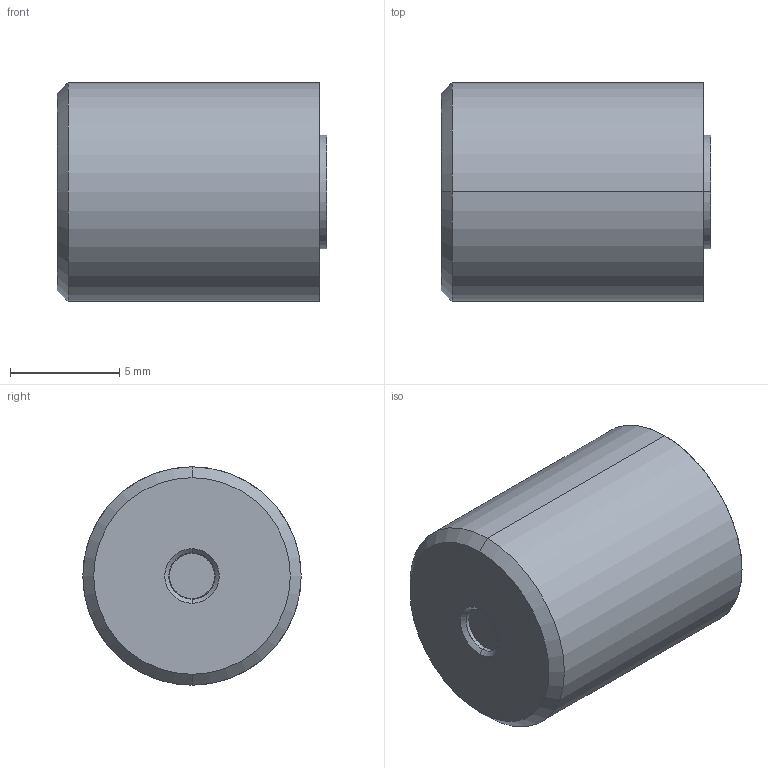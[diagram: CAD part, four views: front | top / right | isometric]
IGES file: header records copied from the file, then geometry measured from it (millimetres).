
Start section: START RECORD GO HERE.
Global section: file name: D374-10-A-DM-FA.igs; native system: DASSAULT SYSTEMES CATIA V5 R20 - www.3ds.com; preprocessor: CATIA Version 5 Release 20 ; author: Utente; organization: NB04-ASUS; date: 20210330.123427; units: millimetre
Bounding box: 12.35 x 10 x 10 mm (x, y, z)
Surface area: 872.1 mm2 (no closed solid volume)
Topology: 0 solids, 0 shells, 222 faces, 1224 edges, 1224 vertices
Faces by surface type: plane 137, revolution 85
